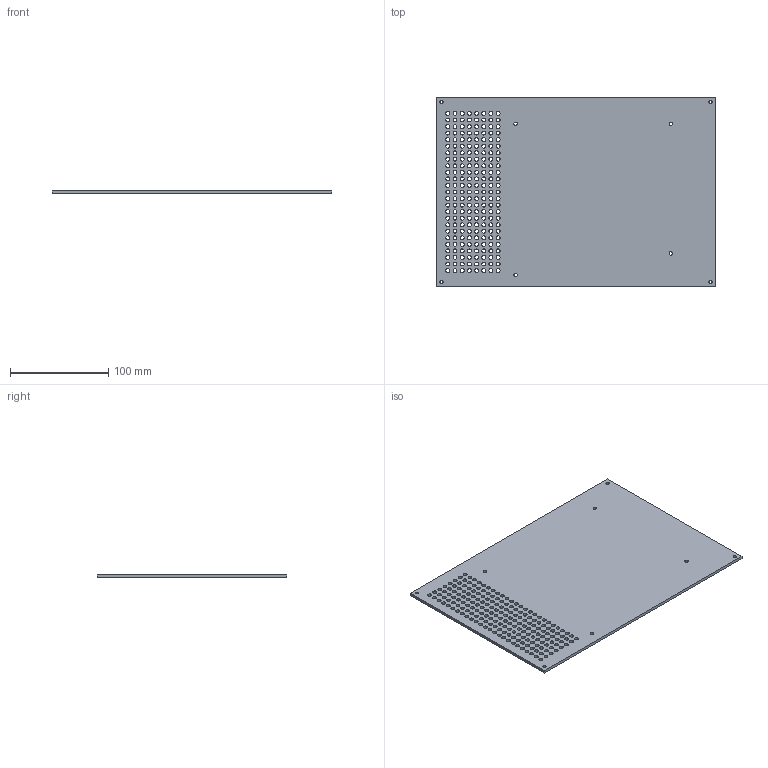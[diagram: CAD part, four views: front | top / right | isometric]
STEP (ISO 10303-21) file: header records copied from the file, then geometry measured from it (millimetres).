
FILE_DESCRIPTION(('FreeCAD Model'),'2;1');
FILE_NAME('Open CASCADE Shape Model','2025-01-25T13:19:10',(''),(''), 'Open CASCADE STEP processor 7.6','FreeCAD','Unknown');
FILE_SCHEMA(('AUTOMOTIVE_DESIGN { 1 0 10303 214 1 1 1 1 }'));
Length unit declared in the file: millimetre
Products named in the file (1): Base
Bounding box: 285 x 193 x 3 mm (x, y, z)
Volume: 157257.1 mm3; surface area: 115502.2 mm2
Topology: 1 solids, 1 shells, 214 faces, 636 edges, 424 vertices
Faces by surface type: cylinder 208, plane 6
Full cylindrical faces by diameter (mm): 3.3 x4, 3.5 x4, 4 x200
Entity records: 8290 total; most frequent: DIRECTION 1482, CARTESIAN_POINT 1275, ORIENTED_EDGE 1272, EDGE_CURVE 636, AXIS2_PLACEMENT_3D 631, FACE_BOUND 630, EDGE_LOOP 630, VERTEX_POINT 424
